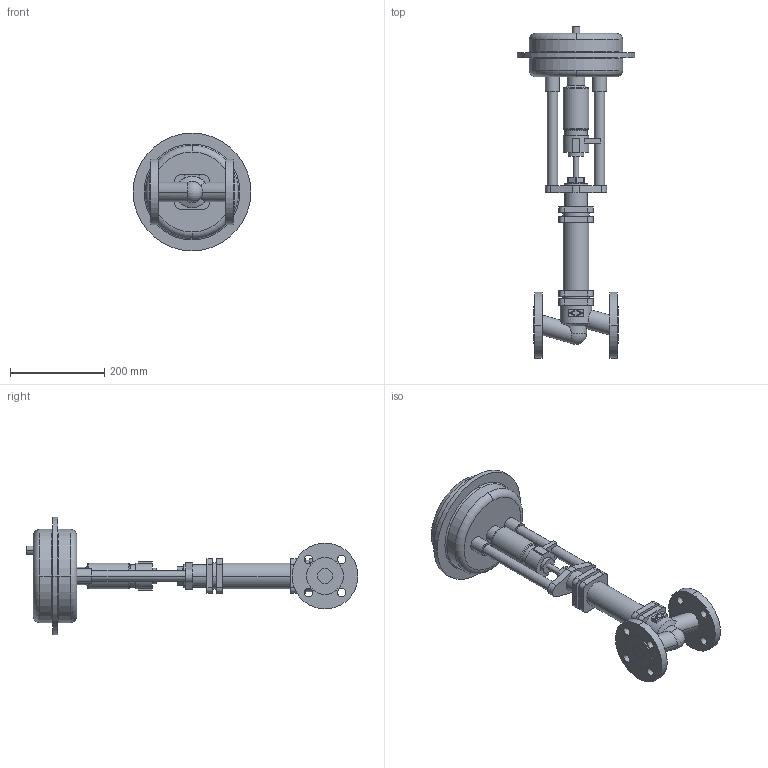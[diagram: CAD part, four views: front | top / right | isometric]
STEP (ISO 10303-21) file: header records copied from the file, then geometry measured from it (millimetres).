
FILE_DESCRIPTION( ( '' ), '1' );
FILE_NAME( 'F:/DE-SHS/TB/OR/04-Sonstiges/daten/files_3d/440-441/c000005726.stp', '2015-05-22T08:00:11', ( '' ), ( '' ), ' ', ' ', ' ' );
FILE_SCHEMA( ( 'CONFIG_CONTROL_DESIGN' ) );
Length unit declared in the file: millimetre
Products named in the file (2): 1; 2
Bounding box: 250 x 705.5 x 250 mm (x, y, z)
Volume: 5148651.5 mm3; surface area: 404034.7 mm2
Topology: 2 solids, 2 shells, 217 faces, 551 edges, 368 vertices
Faces by surface type: cylinder 102, plane 92, torus 16, cone 6, sphere 1
Entity records: 7146 total; most frequent: CARTESIAN_POINT 1524, DIRECTION 1248, ORIENTED_EDGE 1098, EDGE_CURVE 549, AXIS2_PLACEMENT_3D 494, VERTEX_POINT 368, CIRCLE 271, EDGE_LOOP 265
